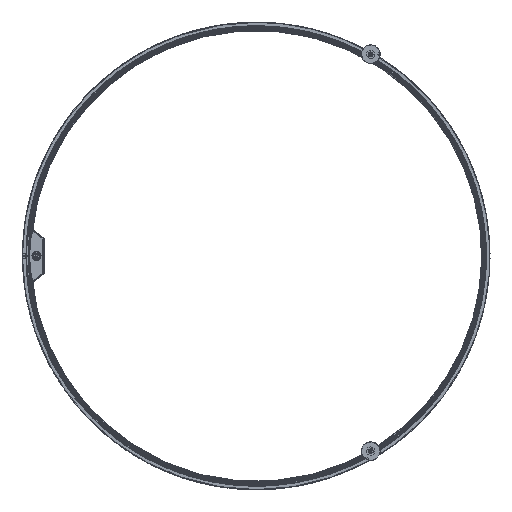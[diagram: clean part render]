
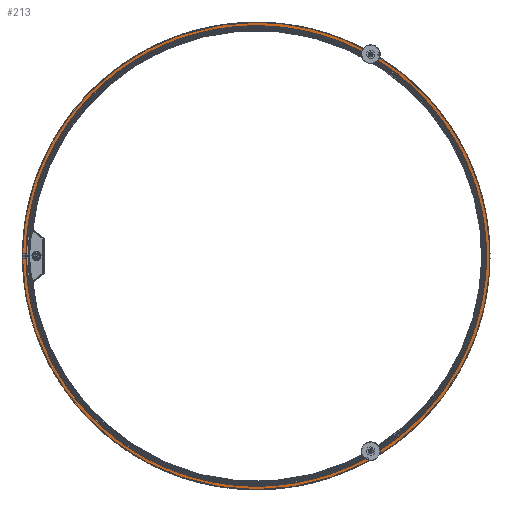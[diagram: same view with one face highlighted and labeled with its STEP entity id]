
A CAD part, top view. The second image highlights one B-rep face of the part: STEP entity #213.
In plain terms, the highlighted planar face has unit normal (0, 0, 1) as drawn and (0, 1, 0) by its records, which use the part's own axes.
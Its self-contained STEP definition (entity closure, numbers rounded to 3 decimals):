
#213=ADVANCED_FACE('',(#633),#6123,.T.);
#633=FACE_OUTER_BOUND('',#1053,.T.);
#1053=EDGE_LOOP('',(#1701,#1702,#1703,#1704,#1705,#1706,#1707,#1708));
#1701=ORIENTED_EDGE('',*,*,#3662,.T.);
#1702=ORIENTED_EDGE('',*,*,#3718,.T.);
#1703=ORIENTED_EDGE('',*,*,#3527,.F.);
#1704=ORIENTED_EDGE('',*,*,#3531,.F.);
#1705=ORIENTED_EDGE('',*,*,#3697,.T.);
#1706=ORIENTED_EDGE('',*,*,#3523,.F.);
#1707=ORIENTED_EDGE('',*,*,#3519,.T.);
#1708=ORIENTED_EDGE('',*,*,#3720,.T.);
#3519=EDGE_CURVE('',#5552,#5555,#4986,.T.);
#3523=EDGE_CURVE('',#5552,#5556,#4990,.T.);
#3527=EDGE_CURVE('',#5559,#5560,#4994,.T.);
#3531=EDGE_CURVE('',#5563,#5559,#4998,.T.);
#3662=EDGE_CURVE('',#5646,#5647,#4534,.T.);
#3697=EDGE_CURVE('',#5563,#5556,#4555,.T.);
#3718=EDGE_CURVE('',#5647,#5560,#5114,.T.);
#3720=EDGE_CURVE('',#5555,#5646,#5116,.T.);
#4534=B_SPLINE_CURVE_WITH_KNOTS('',1,(#12571,#12572),.UNSPECIFIED.,.F.,
 .F.,(2,2),(0.,3.6),.UNSPECIFIED.);
#4555=B_SPLINE_CURVE_WITH_KNOTS('',1,(#12655,#12656),.UNSPECIFIED.,.F.,
 .F.,(2,2),(-3.6,0.),.UNSPECIFIED.);
#4986=(
BOUNDED_CURVE()
B_SPLINE_CURVE(2,(#12084,#12085,#12086,#12087,#12088),.UNSPECIFIED.,.F.,
 .F.)
B_SPLINE_CURVE_WITH_KNOTS((3,2,3),(0.,392.385,784.77),
 .UNSPECIFIED.)
CURVE()
GEOMETRIC_REPRESENTATION_ITEM()
RATIONAL_B_SPLINE_CURVE((1.,0.707,1.,0.707,1.))
REPRESENTATION_ITEM('')
);
#4990=(
BOUNDED_CURVE()
B_SPLINE_CURVE(2,(#12100,#12101,#12102),.UNSPECIFIED.,.F.,.F.)
B_SPLINE_CURVE_WITH_KNOTS((3,3),(0.,391.949),.UNSPECIFIED.)
CURVE()
GEOMETRIC_REPRESENTATION_ITEM()
RATIONAL_B_SPLINE_CURVE((1.,0.708,1.))
REPRESENTATION_ITEM('')
);
#4994=(
BOUNDED_CURVE()
B_SPLINE_CURVE(2,(#12114,#12115,#12116,#12117,#12118),.UNSPECIFIED.,.F.,
 .F.)
B_SPLINE_CURVE_WITH_KNOTS((3,2,3),(0.,386.73,773.46),
 .UNSPECIFIED.)
CURVE()
GEOMETRIC_REPRESENTATION_ITEM()
RATIONAL_B_SPLINE_CURVE((1.,0.707,1.,0.707,1.))
REPRESENTATION_ITEM('')
);
#4998=(
BOUNDED_CURVE()
B_SPLINE_CURVE(2,(#12128,#12129,#12130),.UNSPECIFIED.,.F.,.F.)
B_SPLINE_CURVE_WITH_KNOTS((3,3),(0.,386.3),.UNSPECIFIED.)
CURVE()
GEOMETRIC_REPRESENTATION_ITEM()
RATIONAL_B_SPLINE_CURVE((1.,0.708,1.))
REPRESENTATION_ITEM('')
);
#5114=(
BOUNDED_CURVE()
B_SPLINE_CURVE(2,(#12710,#12711,#12712),.UNSPECIFIED.,.F.,.F.)
B_SPLINE_CURVE_WITH_KNOTS((3,3),(-1546.92,-1160.19),
 .UNSPECIFIED.)
CURVE()
GEOMETRIC_REPRESENTATION_ITEM()
RATIONAL_B_SPLINE_CURVE((1.,0.707,1.))
REPRESENTATION_ITEM('')
);
#5116=(
BOUNDED_CURVE()
B_SPLINE_CURVE(2,(#12716,#12717,#12718),.UNSPECIFIED.,.F.,.F.)
B_SPLINE_CURVE_WITH_KNOTS((3,3),(-392.385,0.),.UNSPECIFIED.)
CURVE()
GEOMETRIC_REPRESENTATION_ITEM()
RATIONAL_B_SPLINE_CURVE((1.,0.707,1.))
REPRESENTATION_ITEM('')
);
#5552=VERTEX_POINT('',#11783);
#5555=VERTEX_POINT('',#11786);
#5556=VERTEX_POINT('',#11787);
#5559=VERTEX_POINT('',#11790);
#5560=VERTEX_POINT('',#11791);
#5563=VERTEX_POINT('',#11794);
#5646=VERTEX_POINT('',#11877);
#5647=VERTEX_POINT('',#11878);
#6123=PLANE('',#6727);
#6727=AXIS2_PLACEMENT_3D('',#10171,#6865,$);
#6865=DIRECTION('',(0.,1.,0.));
#10171=CARTESIAN_POINT('',(-299.76,15.,-299.76));
#11783=CARTESIAN_POINT('',(0.,15.,249.8));
#11786=CARTESIAN_POINT('',(0.,15.,-249.8));
#11787=CARTESIAN_POINT('',(-249.8,15.,0.436));
#11790=CARTESIAN_POINT('',(0.,15.,246.2));
#11791=CARTESIAN_POINT('',(0.,15.,-246.2));
#11794=CARTESIAN_POINT('',(-246.2,15.,0.43));
#11877=CARTESIAN_POINT('',(-249.8,15.,0.));
#11878=CARTESIAN_POINT('',(-246.2,15.,0.));
#12084=CARTESIAN_POINT('',(0.,15.,249.8));
#12085=CARTESIAN_POINT('',(249.8,15.,249.8));
#12086=CARTESIAN_POINT('',(249.8,15.,0.));
#12087=CARTESIAN_POINT('',(249.8,15.,-249.8));
#12088=CARTESIAN_POINT('',(0.,15.,-249.8));
#12100=CARTESIAN_POINT('',(0.,15.,249.8));
#12101=CARTESIAN_POINT('',(-249.364,15.,249.8));
#12102=CARTESIAN_POINT('',(-249.8,15.,0.436));
#12114=CARTESIAN_POINT('',(0.,15.,246.2));
#12115=CARTESIAN_POINT('',(246.2,15.,246.2));
#12116=CARTESIAN_POINT('',(246.2,15.,0.));
#12117=CARTESIAN_POINT('',(246.2,15.,-246.2));
#12118=CARTESIAN_POINT('',(0.,15.,-246.2));
#12128=CARTESIAN_POINT('',(-246.2,15.,0.43));
#12129=CARTESIAN_POINT('',(-245.771,15.,246.2));
#12130=CARTESIAN_POINT('',(0.,15.,246.2));
#12571=CARTESIAN_POINT('',(-249.8,15.,0.));
#12572=CARTESIAN_POINT('',(-246.2,15.,0.));
#12655=CARTESIAN_POINT('',(-246.2,15.,0.43));
#12656=CARTESIAN_POINT('',(-249.8,15.,0.436));
#12710=CARTESIAN_POINT('',(-246.2,15.,0.));
#12711=CARTESIAN_POINT('',(-246.2,15.,-246.2));
#12712=CARTESIAN_POINT('',(0.,15.,-246.2));
#12716=CARTESIAN_POINT('',(0.,15.,-249.8));
#12717=CARTESIAN_POINT('',(-249.8,15.,-249.8));
#12718=CARTESIAN_POINT('',(-249.8,15.,0.));
